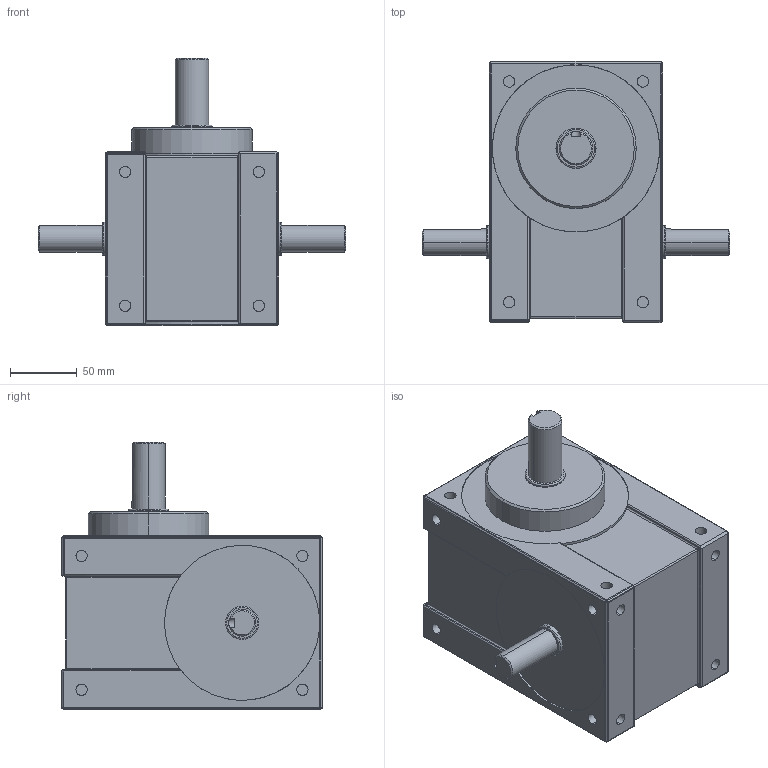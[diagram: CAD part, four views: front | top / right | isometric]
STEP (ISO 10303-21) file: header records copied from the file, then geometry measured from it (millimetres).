
FILE_DESCRIPTION((''),'2;1');
FILE_NAME('70DS','2015-05-28T',('松仔'),(''),'PRO/ENGINEER BY PARAMETRIC TECHNOLOGY CORPORATION, 2013430','PRO/ENGINEER BY PARAMETRIC TECHNOLOGY CORPORATION, 2013430','');
FILE_SCHEMA(('CONFIG_CONTROL_DESIGN'));
Length unit declared in the file: millimetre
Products named in the file (1): 70DS
Bounding box: 230 x 195 x 200 mm (x, y, z)
Volume: 3277747.8 mm3; surface area: 160810.5 mm2
Topology: 1 solids, 1 shells, 344 faces, 837 edges, 494 vertices
Faces by surface type: cylinder 207, plane 78, sphere 40, torus 10, cone 5, bspline 4
Entity records: 11263 total; most frequent: CARTESIAN_POINT 3394, ORIENTED_EDGE 1674, DIRECTION 1589, EDGE_CURVE 837, AXIS2_PLACEMENT_3D 631, VERTEX_POINT 494, EDGE_LOOP 375, FACE_OUTER_BOUND 344
